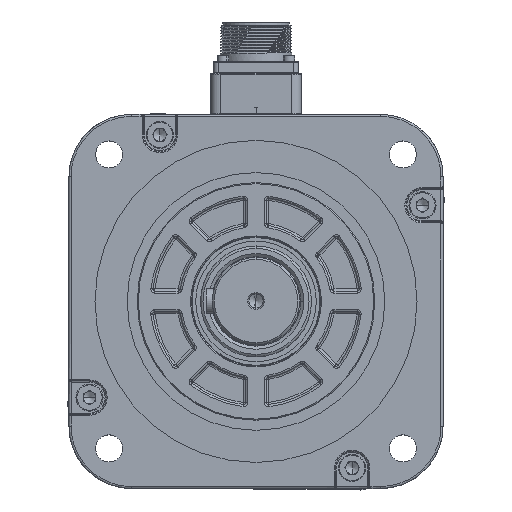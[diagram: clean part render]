
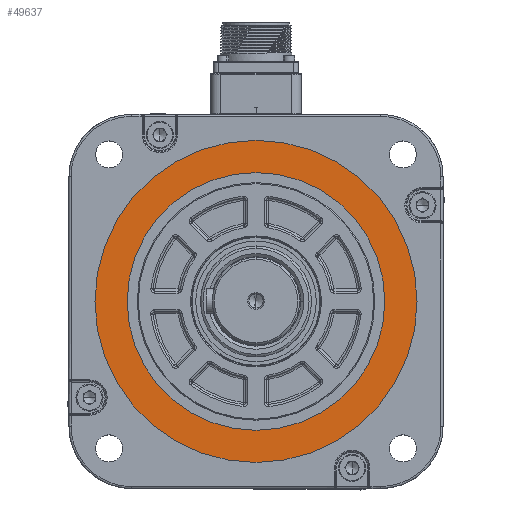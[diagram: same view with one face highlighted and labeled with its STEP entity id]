
A CAD part, top view. The second image highlights one B-rep face of the part: STEP entity #49637.
In plain terms, the highlighted planar face has unit normal (0, 0, 1) as drawn and (0, 0, -1) by its records, which use the part's own axes.
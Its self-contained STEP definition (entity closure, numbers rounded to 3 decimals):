
#7778 = VERTEX_POINT ( 'NONE', #101079 ) ;
#8982 = DIRECTION ( 'NONE',  ( -1., 0., 0. ) ) ;
#13272 = CARTESIAN_POINT ( 'NONE',  ( 0., 0., 1.5 ) ) ;
#14435 = AXIS2_PLACEMENT_3D ( 'NONE', #79039, #89180, #8982 ) ;
#24795 = EDGE_CURVE ( 'NONE', #101339, #26073, #38788, .T. ) ;
#25265 = CIRCLE ( 'NONE', #14435, 77.5 ) ;
#25478 = CIRCLE ( 'NONE', #61665, 62. ) ;
#26073 = VERTEX_POINT ( 'NONE', #81962 ) ;
#27937 = DIRECTION ( 'NONE',  ( -1., 0., 0. ) ) ;
#30804 = CARTESIAN_POINT ( 'NONE',  ( 0., 0., 1.5 ) ) ;
#35530 = CARTESIAN_POINT ( 'NONE',  ( 62., 0., 1.5 ) ) ;
#38125 = CARTESIAN_POINT ( 'NONE',  ( 0., 0., 1.5 ) ) ;
#38631 = DIRECTION ( 'NONE',  ( 0., 0., 1. ) ) ;
#38788 = CIRCLE ( 'NONE', #66462, 62. ) ;
#39738 = DIRECTION ( 'NONE',  ( -1., 0., 0. ) ) ;
#40748 = CARTESIAN_POINT ( 'NONE',  ( 0., 0., 1.5 ) ) ;
#43041 = FACE_OUTER_BOUND ( 'NONE', #59700, .T. ) ;
#47352 = DIRECTION ( 'NONE',  ( 0., 0., -1. ) ) ;
#49085 = EDGE_LOOP ( 'NONE', ( #144701, #77202 ) ) ;
#49637 = ADVANCED_FACE ( 'NONE', ( #43041, #120915 ), #116697, .T. ) ;
#50257 = EDGE_CURVE ( 'NONE', #64815, #7778, #118722, .T. ) ;
#52666 = DIRECTION ( 'NONE',  ( 0., 0., -1. ) ) ;
#52930 = DIRECTION ( 'NONE',  ( 0., 0., 1. ) ) ;
#59700 = EDGE_LOOP ( 'NONE', ( #93367, #150071 ) ) ;
#61665 = AXIS2_PLACEMENT_3D ( 'NONE', #38125, #38631, #27937 ) ;
#64815 = VERTEX_POINT ( 'NONE', #82309 ) ;
#66462 = AXIS2_PLACEMENT_3D ( 'NONE', #40748, #52930, #39738 ) ;
#77202 = ORIENTED_EDGE ( 'NONE', *, *, #24795, .T. ) ;
#79039 = CARTESIAN_POINT ( 'NONE',  ( 0., 0., 1.5 ) ) ;
#81962 = CARTESIAN_POINT ( 'NONE',  ( -62., 0., 1.5 ) ) ;
#82309 = CARTESIAN_POINT ( 'NONE',  ( -77.5, 0., 1.5 ) ) ;
#89180 = DIRECTION ( 'NONE',  ( 0., 0., -1. ) ) ;
#93367 = ORIENTED_EDGE ( 'NONE', *, *, #50257, .T. ) ;
#94170 = EDGE_CURVE ( 'NONE', #7778, #64815, #25265, .T. ) ;
#101079 = CARTESIAN_POINT ( 'NONE',  ( 77.5, 0., 1.5 ) ) ;
#101339 = VERTEX_POINT ( 'NONE', #35530 ) ;
#103520 = AXIS2_PLACEMENT_3D ( 'NONE', #13272, #47352, #128929 ) ;
#110862 = DIRECTION ( 'NONE',  ( -1., 0., 0. ) ) ;
#112451 = AXIS2_PLACEMENT_3D ( 'NONE', #30804, #52666, #110862 ) ;
#116697 = PLANE ( 'NONE',  #103520 ) ;
#118722 = CIRCLE ( 'NONE', #112451, 77.5 ) ;
#120915 = FACE_BOUND ( 'NONE', #49085, .T. ) ;
#128929 = DIRECTION ( 'NONE',  ( -1., 0., 0. ) ) ;
#144701 = ORIENTED_EDGE ( 'NONE', *, *, #147925, .T. ) ;
#147925 = EDGE_CURVE ( 'NONE', #26073, #101339, #25478, .T. ) ;
#150071 = ORIENTED_EDGE ( 'NONE', *, *, #94170, .T. ) ;
